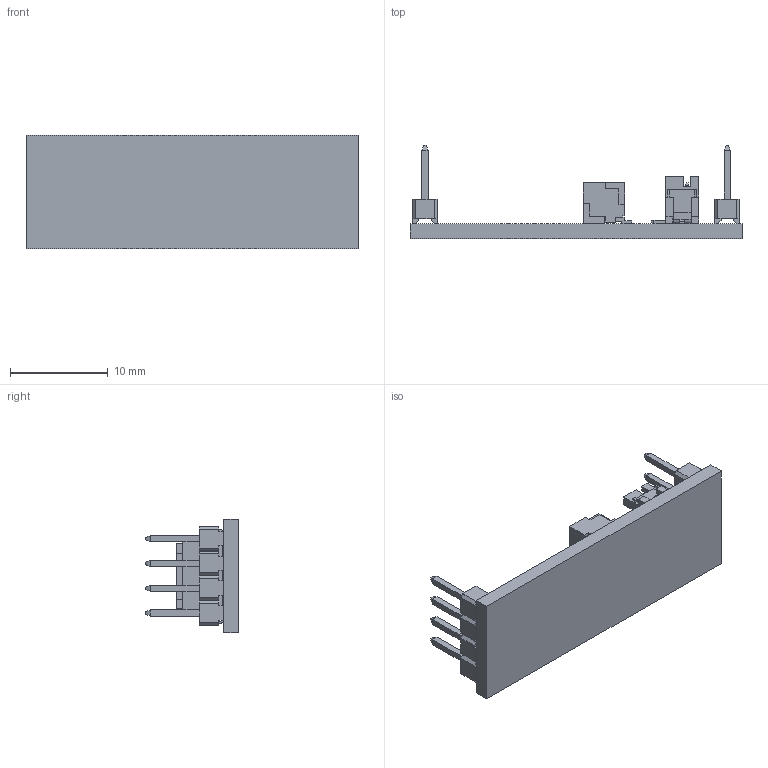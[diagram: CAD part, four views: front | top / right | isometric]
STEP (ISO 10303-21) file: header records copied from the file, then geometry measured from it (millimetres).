
FILE_DESCRIPTION (( 'STEP AP214' ), '1' );
FILE_NAME ('LEVEL-CONVERTER-ASM-I2C-LEVEL-CONVERTER-R1.STEP', '2018-07-09T22:23:28', ( '' ), ( '' ), 'SwSTEP 2.0', 'SolidWorks 2016', '' );
FILE_SCHEMA (( 'AUTOMOTIVE_DESIGN' ));
Length unit declared in the file: metre
Products named in the file (1): LEVEL-CONVERTER-ASM-I2C-LEVEL-CONVERTER-R1
Bounding box: 34 x 9.52 x 11.6 mm (x, y, z)
Volume: 875.1 mm3; surface area: 1788.4 mm2
Topology: 5 solids, 5 shells, 588 faces, 1602 edges, 1038 vertices
Faces by surface type: plane 556, cylinder 32
Entity records: 24660 total; most frequent: CARTESIAN_POINT 3229, ORIENTED_EDGE 3204, DIRECTION 2844, EDGE_CURVE 1602, LINE 1538, VECTOR 1538, VERTEX_POINT 1038, AXIS2_PLACEMENT_3D 653
